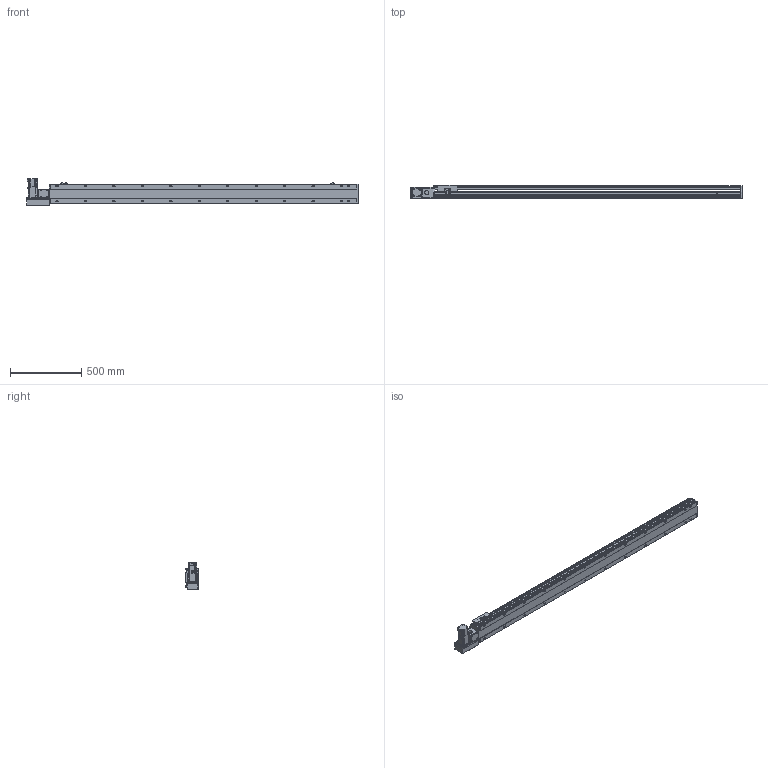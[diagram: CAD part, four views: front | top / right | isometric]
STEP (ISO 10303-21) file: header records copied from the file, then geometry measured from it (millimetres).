
FILE_DESCRIPTION( ( 'STEP AP214' ), '1' );
FILE_NAME( 'x:/temp/worker_6/temp/exporttempdir_5396_23_urM01/format_0/PBS140S-P40-S1900-L-T40-C1-N(0).stp', '2022-06-09T00:02:53', ( 'License CC BY-ND 4.0' ), ( 'CADENAS' ), ' ', 'PARTsolutions', ' ' );
FILE_SCHEMA( ( 'AUTOMOTIVE_DESIGN { 1 0 10303 214 1 1 1 1 }' ) );
Length unit declared in the file: millimetre
Products named in the file (7): PBS140S-P40-S1900-L-T40-C1-N(0); _PBS140S-S1900()_body; _PBS140ST-L_motors; _T40-p1; _PBS140S_sliser; _PBS140S_plant; _PBS140S_sensor
Assembly tree (8 placements, depth 2):
  PBS140S-P40-S1900-L-T40-C1-N(0)
    _PBS140S-S1900()_body
    _PBS140ST-L_motors
    _T40-p1
    _PBS140S_sliser
    _PBS140S_plant
    _PBS140S_sensor  x3
Bounding box: 2333 x 93 x 189.7 mm (x, y, z)
Volume: 11136181.4 mm3; surface area: 1890408.9 mm2
Topology: 8 solids, 8 shells, 1163 faces, 3071 edges, 2009 vertices
Faces by surface type: plane 726, cylinder 377, cone 50, sphere 8, torus 2
Full cylindrical faces by diameter (mm): 3.242 x4, 4 x2, 4.134 x4, 4.4 x8, 4.5 x2, 4.8 x4, 4.917 x32, 5.5 x7, 6 x2, 7 x26, 7.5 x8, 8 x12, 8.5 x4, 10.5 x24, 14 x1, 30 x2, 50 x2
Entity records: 42904 total; most frequent: CARTESIAN_POINT 7078, DIRECTION 5628, ORIENTED_EDGE 5302, EDGE_CURVE 2651, AXIS2_PLACEMENT_3D 1979, VERTEX_POINT 1849, LINE 1670, VECTOR 1670
